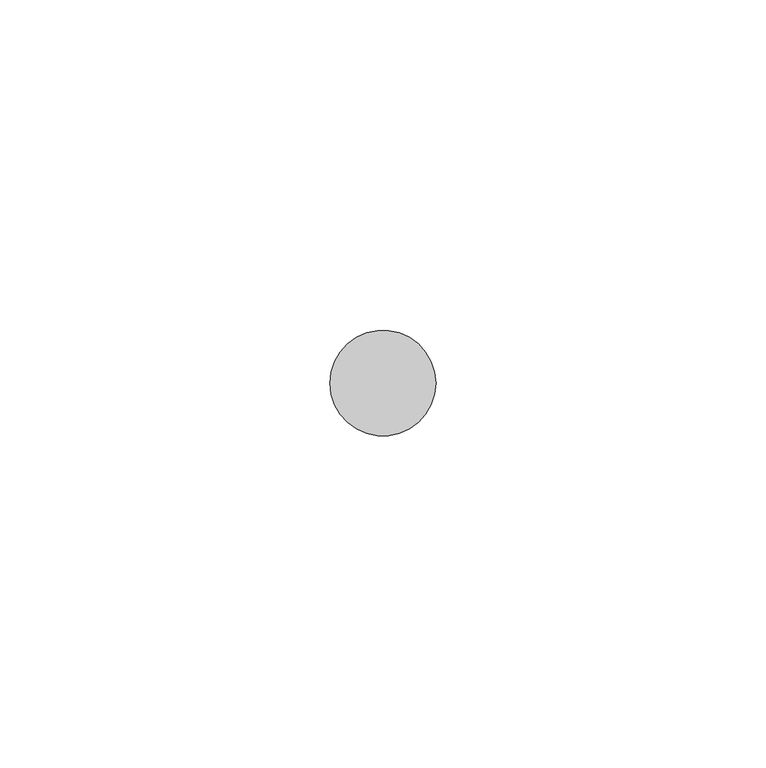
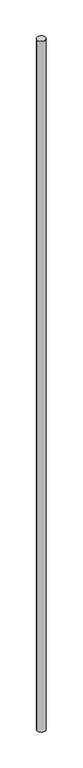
"""IFC4 building model written with IfcOpenShell, lengths in millimetres: pipe fitting geometry, СТ_Вл-3D_Подсчет_Шпилька : СТ_Вл-3D_Подсчет_Шпилька."""

from ifc_helpers import new_model, si_unit, point, origin, origin_with_axes, origin_2d, place, context, project, spatial, circle_curve, trimmed, segment, composite_curve, outline, extrude, source, transform, mapped, element, save


def pipe_fitting_b5d57670(model_context):
    return source(origin(), model_context, "Body", "SweptSolid", [
        extrude(outline(composite_curve([segment(trimmed(circle_curve(origin_2d(), 8.0), [point((-8.0, 0.0))], [point((8.0, 0.0))], False, "CARTESIAN"), True, "CONTINUOUS"), segment(trimmed(circle_curve(origin_2d(), 8.0), [point((8.0, 0.0))], [point((-8.0, 0.0))], False, "CARTESIAN"), True, "CONTINUOUS")], self_intersect=False)), origin_with_axes(), (0.0, 0.0, 1.0), 1397.0),
    ])


if __name__ == "__main__":
    model = new_model("IFC4")
    model_context = context("Model", 3, world=origin())
    ifc_project = project(units=[si_unit("LENGTHUNIT", "METRE", prefix="MILLI")], contexts=[model_context])
    site = spatial("IfcSite", under=ifc_project)
    building = spatial("IfcBuilding", under=site)
    placement = place(None, origin())
    pipe_fitting_shape = pipe_fitting_b5d57670(model_context)
    element("IfcPipeFitting", 1, ObjectType="СТ_Вл-3D_Подсчет_Шпилька : СТ_Вл-3D_Подсчет_Шпилька", at=placement, inside=building, context=model_context, shape_type="MappedRepresentation", body=[
        mapped(pipe_fitting_shape, transform((0.0, 0.0, 0.0), x_axis=(1.0, 0.0, 0.0), y_axis=(0.0, 1.0, 0.0), z_axis=(0.0, 0.0, 1.0))),
    ])
    save(model, "model.ifc")
